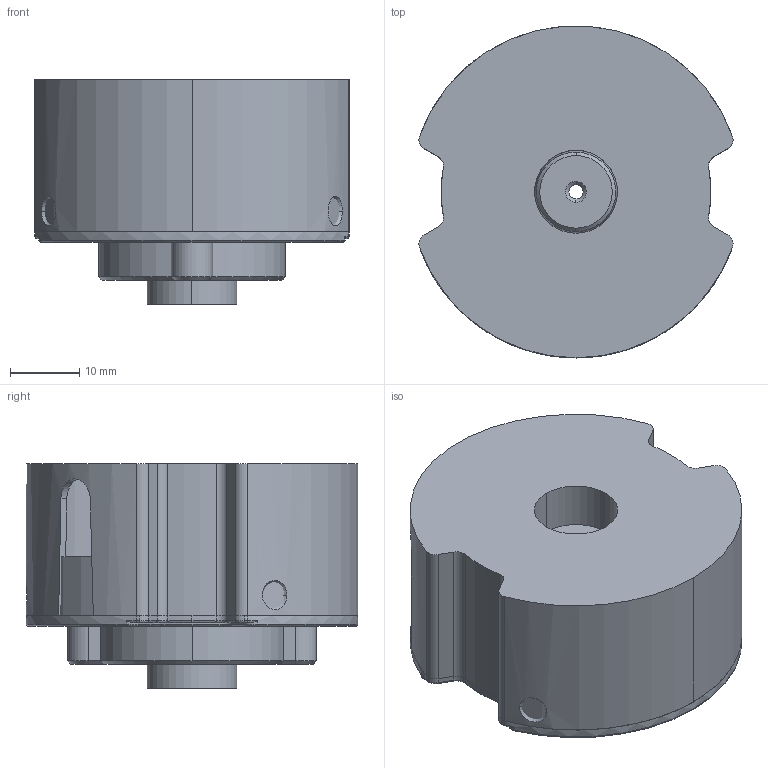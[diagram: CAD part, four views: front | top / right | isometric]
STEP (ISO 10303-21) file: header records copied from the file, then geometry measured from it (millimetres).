
FILE_DESCRIPTION (( 'STEP AP203' ), '1' );
FILE_NAME ('48袪粣俋倛.STEP', '2024-11-15T06:19:22', ( 'dell' ), ( '' ), 'SwSTEP 2.0', 'SolidWorks 2021', '' );
FILE_SCHEMA (( 'CONFIG_CONTROL_DESIGN' ));
Length unit declared in the file: millimetre
Products named in the file (4): 48俋褲; MM4809-201C-A1.1; MD4809-101A; 48袪粣俋倛
Assembly tree (3 placements, depth 2):
  48袪粣俋倛
    MD4809-101A
    48俋褲
    MM4809-201C-A1.1
Bounding box: 45.41 x 48 x 32.5 mm (x, y, z)
Volume: 24893 mm3; surface area: 18547.5 mm2
Topology: 3 solids, 3 shells, 289 faces, 711 edges, 452 vertices
Faces by surface type: cylinder 152, plane 71, torus 38, cone 28
Entity records: 9414 total; most frequent: CARTESIAN_POINT 1838, DIRECTION 1672, ORIENTED_EDGE 1422, EDGE_CURVE 711, AXIS2_PLACEMENT_3D 694, VERTEX_POINT 452, CIRCLE 399, EDGE_LOOP 325
